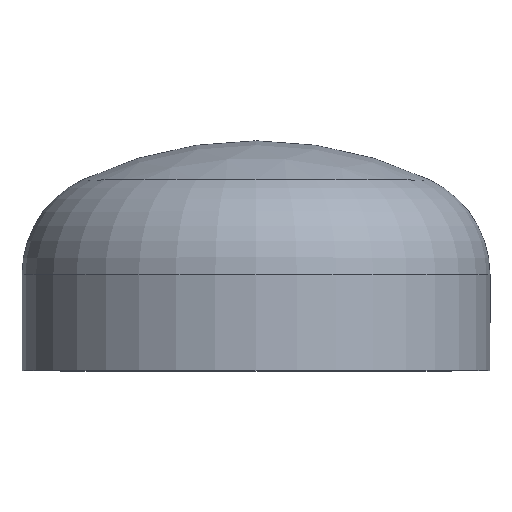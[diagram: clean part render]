
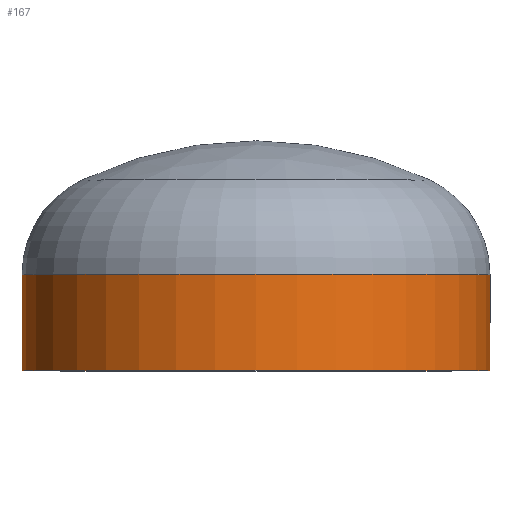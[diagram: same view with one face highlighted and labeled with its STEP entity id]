
A CAD part, top view. The second image highlights one B-rep face of the part: STEP entity #167.
In plain terms, the highlighted cylindrical face has radius 109.55 mm (diameter 219.1 mm), a partial arc.
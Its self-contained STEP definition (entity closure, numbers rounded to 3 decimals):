
#22 = VECTOR ( 'NONE', #295, 1000. ) ;
#37 = LINE ( 'NONE', #179, #287 ) ;
#53 = AXIS2_PLACEMENT_3D ( 'NONE', #164, #143, #318 ) ;
#80 = AXIS2_PLACEMENT_3D ( 'NONE', #268, #267, #266 ) ;
#86 = VERTEX_POINT ( 'NONE', #194 ) ;
#100 = AXIS2_PLACEMENT_3D ( 'NONE', #292, #291, #288 ) ;
#103 = EDGE_CURVE ( 'NONE', #378, #123, #37, .T. ) ;
#106 = EDGE_CURVE ( 'NONE', #123, #86, #366, .T. ) ;
#112 = EDGE_CURVE ( 'NONE', #275, #86, #138, .T. ) ;
#119 = EDGE_CURVE ( 'NONE', #378, #275, #355, .T. ) ;
#123 = VERTEX_POINT ( 'NONE', #282 ) ;
#128 = CARTESIAN_POINT ( 'NONE',  ( -109.55, 45., 0. ) ) ;
#132 = EDGE_LOOP ( 'NONE', ( #356, #409, #269, #168 ) ) ;
#138 = LINE ( 'NONE', #302, #22 ) ;
#143 = DIRECTION ( 'NONE',  ( 0., -1., 0. ) ) ;
#164 = CARTESIAN_POINT ( 'NONE',  ( 0., 0., 0. ) ) ;
#167 = ADVANCED_FACE ( 'NONE', ( #408 ), #264, .T. ) ;
#168 = ORIENTED_EDGE ( 'NONE', *, *, #103, .F. ) ;
#179 = CARTESIAN_POINT ( 'NONE',  ( 109.55, 0., 0. ) ) ;
#182 = DIRECTION ( 'NONE',  ( 0., -1., 0. ) ) ;
#194 = CARTESIAN_POINT ( 'NONE',  ( -109.55, 0., 0. ) ) ;
#216 = CARTESIAN_POINT ( 'NONE',  ( 109.55, 45., 0. ) ) ;
#264 = CYLINDRICAL_SURFACE ( 'NONE', #53, 109.55 ) ;
#266 = DIRECTION ( 'NONE',  ( 1., 0., 0. ) ) ;
#267 = DIRECTION ( 'NONE',  ( 0., -1., 0. ) ) ;
#268 = CARTESIAN_POINT ( 'NONE',  ( 0., 45., 0. ) ) ;
#269 = ORIENTED_EDGE ( 'NONE', *, *, #106, .F. ) ;
#275 = VERTEX_POINT ( 'NONE', #128 ) ;
#282 = CARTESIAN_POINT ( 'NONE',  ( 109.55, 0., 0. ) ) ;
#287 = VECTOR ( 'NONE', #182, 1000. ) ;
#288 = DIRECTION ( 'NONE',  ( 1., 0., 0. ) ) ;
#291 = DIRECTION ( 'NONE',  ( 0., -1., 0. ) ) ;
#292 = CARTESIAN_POINT ( 'NONE',  ( 0., 0., 0. ) ) ;
#295 = DIRECTION ( 'NONE',  ( 0., -1., 0. ) ) ;
#302 = CARTESIAN_POINT ( 'NONE',  ( -109.55, 0., 0. ) ) ;
#318 = DIRECTION ( 'NONE',  ( 1., 0., 0. ) ) ;
#355 = CIRCLE ( 'NONE', #80, 109.55 ) ;
#356 = ORIENTED_EDGE ( 'NONE', *, *, #119, .T. ) ;
#366 = CIRCLE ( 'NONE', #100, 109.55 ) ;
#378 = VERTEX_POINT ( 'NONE', #216 ) ;
#408 = FACE_OUTER_BOUND ( 'NONE', #132, .T. ) ;
#409 = ORIENTED_EDGE ( 'NONE', *, *, #112, .T. ) ;
